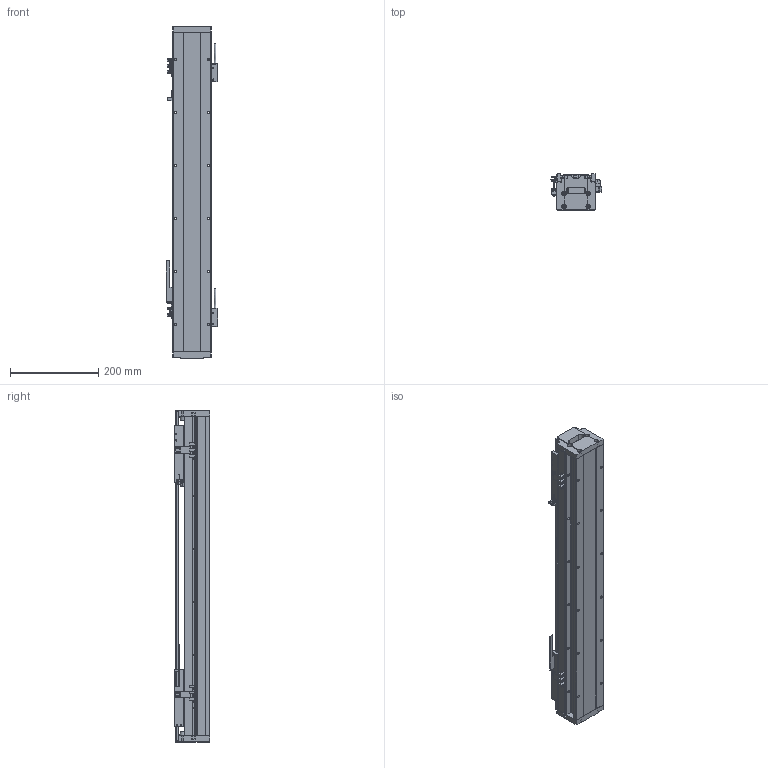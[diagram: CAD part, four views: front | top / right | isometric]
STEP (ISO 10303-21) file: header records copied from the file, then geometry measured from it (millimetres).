
FILE_DESCRIPTION (( 'STEP AP214' ), '1' );
FILE_NAME ('STC086-A-P-0554-2F105-MB-010-0.3.STEP', '2023-05-11T03:09:59', ( '' ), ( '' ), 'SwSTEP 2.0', 'SolidWorks 2018', '' );
FILE_SCHEMA (( 'AUTOMOTIVE_DESIGN' ));
Length unit declared in the file: millimetre
Products named in the file (62): LMD-2-R001-V5-L0.3-C0-F00（磁栅编码器）; 賑輸SRS12M; STK080-F105賑怢蚾饜极-1; 蝶菜17x14x10; SL-205NA-W（光电开关）; HC-U-02-Lxxx棠掑喜; SF-202NA-W（光电开关）; STK0112-01（感应片）(默认); 086-SE1-040-S賑怢; STK013-01（磁栅压块）; STK0095-001（多动子感应片）; STK0066-001（086端盖）; 絳寢SRS12M+xxxxL-G10; STC086-A-P-0554-2F105-MB-010-0.3; 086-Lxxxx菁釱; SE040隅赽; SKT0112-02（线缆固定件）; STK080-F105賑怢蚾饜极; 086-Lxxxx裔啣; STK0086-001（086读头固定块）
Assembly tree (44 placements, depth 3):
  LMD-2-R001-V5-L0.3-C0-F00（磁栅编码器）
  蝶菜17x14x10
  HC-U-02-Lxxx棠掑喜
  SF-202NA-W（光电开关）
  蝶菜17x14x10
Bounding box: 115.7 x 81 x 752 mm (x, y, z)
Volume: 2785769.1 mm3; surface area: 860939.6 mm2
Topology: 42 solids, 42 shells, 3213 faces, 8704 edges, 5522 vertices
Faces by surface type: plane 1646, cylinder 1224, cone 289, torus 24, bspline 22, sphere 8
Entity records: 52274 total; most frequent: CARTESIAN_POINT 10617, ORIENTED_EDGE 8418, DIRECTION 8281, EDGE_CURVE 4209, AXIS2_PLACEMENT_3D 2811, VERTEX_POINT 2749, VECTOR 2659, LINE 2659
